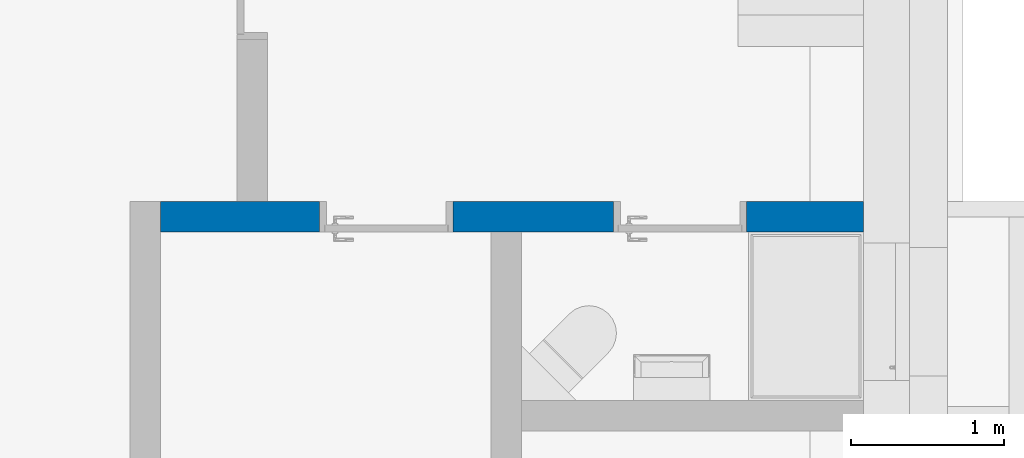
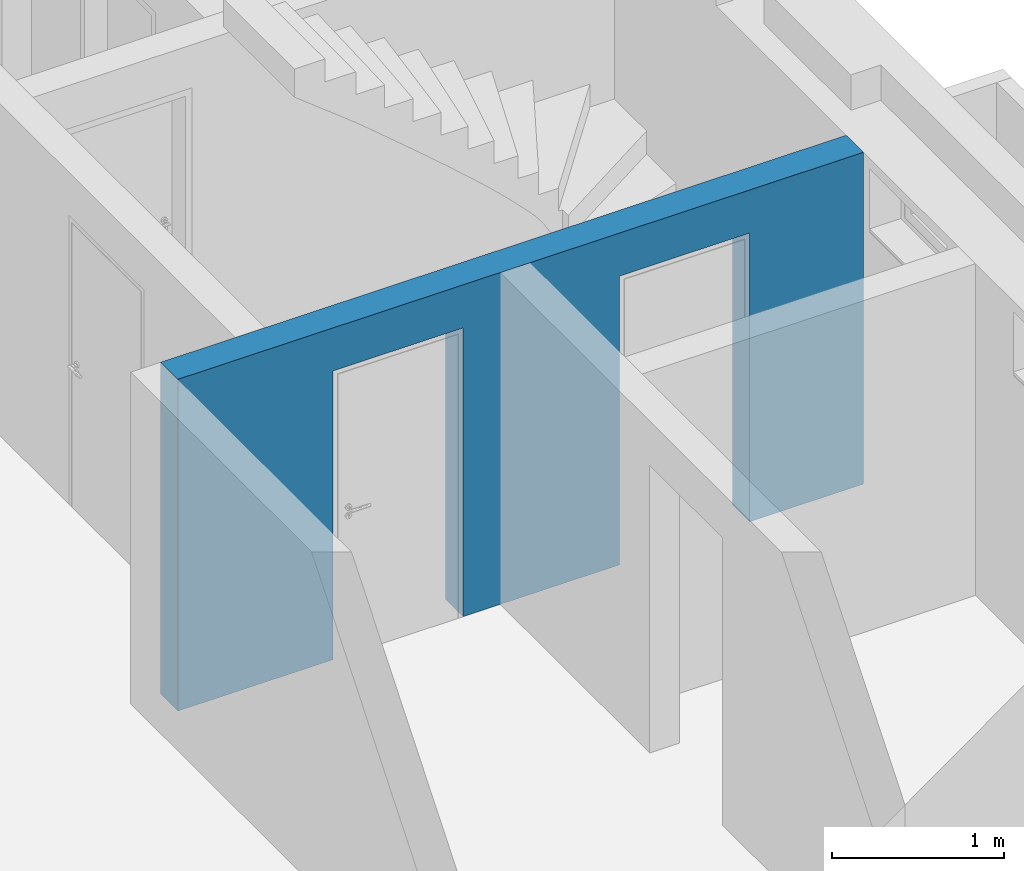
# One storey, part 3 of 22: 1 wall, 2 openings.
"""IFC2X3 building model written with IfcOpenShell, lengths in metres."""

import ifcopenshell
import ifcopenshell.guid

model = None  # the IFC model being written
_history = None  # IfcOwnerHistory: only IFC2X3 demands one
_inside = {}  # id of a spatial element -> (the spatial element, [elements in it])
_under = {}  # id of a project, library or spatial element -> (it, [spatial elements below it])
_declared = {}  # id of a project -> (the project, [libraries it declares])
_typed = {}  # id of a type object -> (the type object, [elements of that type])
_made_of = {}  # id of a material, layer set ... -> (it, [elements and type objects made of it])


def new_model(schema):
    """Start an empty IFC model of exactly this schema.

    Asked for "IFC4X3", IfcOpenShell would pick the latest addendum, in which some entities
    have other attributes; the version numbers below select the first issue.
    IFC2X3 requires an IfcOwnerHistory on every rooted entity: one is made here for all.
    """
    global model, _history
    if schema == "IFC4X3":
        model = ifcopenshell.file(schema_version=(4, 3, 0, 0))
    else:
        model = ifcopenshell.file(schema=schema)
    _inside.clear()
    _under.clear()
    _declared.clear()
    _typed.clear()
    _made_of.clear()
    _history = None
    if model.schema == "IFC2X3":
        org = make("IfcOrganization", Name="unknown")
        user = make(
            "IfcPersonAndOrganization",
            ThePerson=make("IfcPerson", FamilyName="unknown"),
            TheOrganization=org,
        )
        app = make(
            "IfcApplication",
            ApplicationDeveloper=org,
            Version="unknown",
            ApplicationFullName="unknown",
            ApplicationIdentifier="unknown",
        )
        _history = make(
            "IfcOwnerHistory",
            OwningUser=user,
            OwningApplication=app,
            ChangeAction="ADDED",
            CreationDate=0,
        )
    return model


def make(cls, **values):
    """One entity of the class cls with the attributes given. An attribute that is None is left unset."""
    return model.create_entity(
        cls, **{name: value for name, value in values.items() if value is not None}
    )


def entity(cls, *values):
    """Any entity or typed value of the class cls, its attributes in the order of the schema. None: left unset."""
    e = model.create_entity(cls)
    for i, value in enumerate(values):
        if value is not None:
            e[i] = value
    return e


def rooted(cls, **values):
    """An entity with a GlobalId (a new one), such as an element, a storey or a relation."""
    return make(cls, GlobalId=ifcopenshell.guid.new(), OwnerHistory=_history, **values)


def si_unit(unit_type, name, prefix=None):
    """IfcSIUnit, for example si_unit("LENGTHUNIT", "METRE", prefix="MILLI")."""
    return make("IfcSIUnit", UnitType=unit_type, Prefix=prefix, Name=name)


def converted_unit(unit_type, name, factor, base, dimensions=None, offset=None):
    """IfcConversionBasedUnit, such as the inch: factor (a typed value) times the base unit."""
    return make(
        "IfcConversionBasedUnit"
        if offset is None
        else "IfcConversionBasedUnitWithOffset",
        ConversionOffset=offset,
        Dimensions=None
        if dimensions is None
        else entity("IfcDimensionalExponents", *dimensions),
        UnitType=unit_type,
        Name=name,
        ConversionFactor=make(
            "IfcMeasureWithUnit", ValueComponent=factor, UnitComponent=base
        ),
    )


def derived_unit(unit_type, elements):
    """IfcDerivedUnit: a product of units, each with its exponent."""
    return make(
        "IfcDerivedUnit",
        Elements=[
            make("IfcDerivedUnitElement", Unit=unit, Exponent=power)
            for unit, power in elements
        ],
        UnitType=unit_type,
    )


def assignment(units):
    """IfcUnitAssignment: the units of a project."""
    return None if units is None else make("IfcUnitAssignment", Units=units)


def point(xyz):
    """IfcCartesianPoint."""
    return None if xyz is None else make("IfcCartesianPoint", Coordinates=xyz)


def direction(xyz):
    """IfcDirection."""
    return None if xyz is None else make("IfcDirection", DirectionRatios=xyz)


def frame(location, z_axis=None, x_axis=None):
    """IfcAxis2Placement3D, a coordinate frame: its origin and axes. An axis left out is left unset."""
    return make(
        "IfcAxis2Placement3D",
        Location=point(location),
        Axis=direction(z_axis),
        RefDirection=direction(x_axis),
    )


def frame_2d(location, x_axis=None):
    """IfcAxis2Placement2D, a coordinate frame in the plane: its origin and x axis."""
    return make(
        "IfcAxis2Placement2D", Location=point(location), RefDirection=direction(x_axis)
    )


def origin():
    """The frame at (0, 0, 0) with its axes left unset."""
    return frame((0.0, 0.0, 0.0))


def place(relative_to, where):
    """IfcLocalPlacement: puts the frame where relative to a parent placement (None: the world)."""
    return make(
        "IfcLocalPlacement", PlacementRelTo=relative_to, RelativePlacement=where
    )


def context(
    kind, dimensions, precision=None, world=None, true_north=None, identifier=None
):
    """IfcGeometricRepresentationContext, for example the 3D "Model" context."""
    return make(
        "IfcGeometricRepresentationContext",
        ContextIdentifier=identifier,
        ContextType=kind,
        CoordinateSpaceDimension=dimensions,
        Precision=precision,
        WorldCoordinateSystem=world,
        TrueNorth=true_north,
    )


def subcontext(parent, identifier, kind, view, scale=None):
    """IfcGeometricRepresentationSubContext, for example "Body" below "Model"."""
    return make(
        "IfcGeometricRepresentationSubContext",
        ContextIdentifier=identifier,
        ContextType=kind,
        ParentContext=parent,
        TargetScale=scale,
        TargetView=view,
    )


def project(units=None, contexts=None):
    """IfcProject with its units and contexts."""
    return rooted(
        "IfcProject",
        Name="project",
        RepresentationContexts=contexts,
        UnitsInContext=assignment(units),
    )


def spatial(cls, under=None, at=None, **own):
    """A site, building, storey or space (cls), placed at a placement, below another one or the project."""
    s = rooted(cls, ObjectPlacement=at, **own)
    if under is not None:
        _under.setdefault(under.id(), (under, []))[1].append(s)
    return s


def polyline(points):
    """IfcPolyline through the points."""
    return make("IfcPolyline", Points=[point(p) for p in points])


def profile(cls, at=None, kind="AREA", **sizes):
    """A parametric profile (cls). Its sizes go by their IFC names, for example OverallWidth=200.0."""
    return make(cls, ProfileType=kind, Position=at, **sizes)


def rectangle(**sizes):
    """IfcRectangleProfileDef."""
    return profile("IfcRectangleProfileDef", **sizes)


def extrude(swept, where, along, depth):
    """IfcExtrudedAreaSolid: the profile swept, set in the frame where, extruded along a direction by depth."""
    return make(
        "IfcExtrudedAreaSolid",
        SweptArea=swept,
        Position=where,
        ExtrudedDirection=direction(along),
        Depth=depth,
    )


def clip(a, b, op="DIFFERENCE"):
    """IfcBooleanClippingResult: the solid a cut by the half space b."""
    return make(
        "IfcBooleanClippingResult", Operator=op, FirstOperand=a, SecondOperand=b
    )


def bounded_halfspace(plane, agree, where, boundary):
    """IfcPolygonalBoundedHalfSpace: a half space limited to a polygon's prism."""
    return make(
        "IfcPolygonalBoundedHalfSpace",
        BaseSurface=make("IfcPlane", Position=plane),
        AgreementFlag=agree,
        Position=where,
        PolygonalBoundary=boundary,
    )


def shape(context_of_items, identifier, shape_type, items):
    """IfcShapeRepresentation: the items that make up one representation, for example the "Body"."""
    return make(
        "IfcShapeRepresentation",
        ContextOfItems=context_of_items,
        RepresentationIdentifier=identifier,
        RepresentationType=shape_type,
        Items=items,
    )


def material(Name=None, Category=None):
    """IfcMaterial."""
    return make("IfcMaterial", Name=Name, Category=Category)


def layer(
    of_material, thickness, ventilated=None, Name=None, Category=None, Priority=None
):
    """IfcMaterialLayer: one layer of a wall or slab, of a material (None: an air gap)."""
    return make(
        "IfcMaterialLayer",
        Material=of_material,
        LayerThickness=thickness,
        IsVentilated=ventilated,
        Name=Name,
        Category=Category,
        Priority=Priority,
    )


def layer_set(layers, Name=None):
    """IfcMaterialLayerSet."""
    return make("IfcMaterialLayerSet", MaterialLayers=layers, LayerSetName=Name)


def layer_usage(for_layer_set, set_direction, sense, offset, extent=None):
    """IfcMaterialLayerSetUsage: how a layer set lies in its element."""
    return make(
        "IfcMaterialLayerSetUsage",
        ForLayerSet=for_layer_set,
        LayerSetDirection=set_direction,
        DirectionSense=sense,
        OffsetFromReferenceLine=offset,
        ReferenceExtent=extent,
    )


def made_of(thing, what):
    """Note that an element or type object is made of a material, layer set ...; save() writes the relation."""
    if what is not None:
        _made_of.setdefault(what.id(), (what, []))[1].append(thing)
    return thing


def type_object(cls, material=None, **own):
    """A type object (cls), such as IfcWallType, which elements share."""
    return made_of(rooted(cls, **own), material)


def element(
    cls,
    number,
    at=None,
    inside=None,
    cuts=None,
    type_object=None,
    material=None,
    context=None,
    identifier="Body",
    shape_type=None,
    held_by="IfcProductDefinitionShape",
    body=None,
    shapes=None,
    **own,
):
    """One element of the class cls, such as IfcWall. Its Tag is "e" and its number.

    at: its placement. inside: the storey or other place that contains it. cuts: it is an
    opening in that element (IfcRelVoidsElement). A single representation is given by context,
    identifier, shape_type and body (its items); several are given by shapes. held_by: the class
    of the entity that holds the representations. save() writes the other relations.
    """
    e = rooted(cls, Tag="e%d" % number, ObjectPlacement=at, **own)
    if body is not None:
        shapes = [shape(context, identifier, shape_type, body)]
    if shapes is not None:
        e.Representation = make(held_by, Representations=shapes)
    if inside is not None:
        _inside.setdefault(inside.id(), (inside, []))[1].append(e)
    if cuts is not None:
        rooted(
            "IfcRelVoidsElement", RelatingBuildingElement=cuts, RelatedOpeningElement=e
        )
    if type_object is not None:
        _typed.setdefault(type_object.id(), (type_object, []))[1].append(e)
    return made_of(e, material)


def aggregate(whole, parts):
    """IfcRelAggregates: a whole, such as a stair, and the parts it consists of."""
    return rooted("IfcRelAggregates", RelatingObject=whole, RelatedObjects=parts)


def save(model, path):
    """Write the relations noted so far, then the file.

    IfcRelAggregates (storeys below a building ...), IfcRelContainedInSpatialStructure (elements
    in a storey), IfcRelDefinesByType, IfcRelAssociatesMaterial and IfcRelDeclares: one each for
    every whole, place, type object, material and project.
    """
    for whole, parts in _under.values():
        aggregate(whole, parts)
    for where, things in _inside.values():
        rooted(
            "IfcRelContainedInSpatialStructure",
            RelatedElements=things,
            RelatingStructure=where,
        )
    for kind, things in _typed.values():
        rooted("IfcRelDefinesByType", RelatedObjects=things, RelatingType=kind)
    for what, things in _made_of.values():
        rooted("IfcRelAssociatesMaterial", RelatedObjects=things, RelatingMaterial=what)
    for by, libraries in _declared.values():
        rooted("IfcRelDeclares", RelatingContext=by, RelatedDefinitions=libraries)
    model.write(path)


model = new_model("IFC2X3")

# Units and contexts
model_context = context("Model", 3, precision=1e-05, world=origin(), true_north=direction((6.123233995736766e-17, 1.0)))
body_context = subcontext(model_context, "Body", "Model", "MODEL_VIEW")
ifc_project = project(units=[si_unit("LENGTHUNIT", "METRE"), si_unit("AREAUNIT", "SQUARE_METRE"), si_unit("VOLUMEUNIT", "CUBIC_METRE"), si_unit("POWERUNIT", "WATT"), derived_unit("USERDEFINED", [(si_unit("MASSUNIT", "GRAM", prefix="KILO"), 1), (si_unit("TIMEUNIT", "SECOND"), -3)]), derived_unit("THERMALRESISTANCEUNIT", [(si_unit("MASSUNIT", "GRAM", prefix="KILO"), -1), (si_unit("TIMEUNIT", "SECOND"), 3), (si_unit("THERMODYNAMICTEMPERATUREUNIT", "KELVIN"), 1)]), derived_unit("USERDEFINED", [(si_unit("MASSUNIT", "GRAM", prefix="KILO"), 1), (si_unit("TIMEUNIT", "SECOND"), -2), (si_unit("THERMODYNAMICTEMPERATUREUNIT", "KELVIN"), -1)]), derived_unit("THERMALTRANSMITTANCEUNIT", [(si_unit("MASSUNIT", "GRAM", prefix="KILO"), 1), (si_unit("TIMEUNIT", "SECOND"), -3), (si_unit("THERMODYNAMICTEMPERATUREUNIT", "KELVIN"), -1)]), converted_unit("PLANEANGLEUNIT", "DEGREE", entity("IfcPlaneAngleMeasure", 0.017453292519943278), si_unit("PLANEANGLEUNIT", "RADIAN"), dimensions=[0, 0, 0, 0, 0, 0, 0]), derived_unit("MOMENTOFINERTIAUNIT", [(si_unit("LENGTHUNIT", "METRE"), 4)])], contexts=[model_context])

# Site, building, storey
site_placement = place(None, origin())
site = spatial("IfcSite", under=ifc_project, at=site_placement, Name="Default", CompositionType="ELEMENT")
building_placement = place(site_placement, origin())
building = spatial("IfcBuilding", under=site, at=building_placement, CompositionType="ELEMENT")
storey_placement = place(building_placement, origin())
storey = spatial("IfcBuildingStorey", under=building, at=storey_placement, Name="Untergeschoss", CompositionType="ELEMENT", Elevation=0.0)

# Wall, openings
ifc_material = material(Name="Mauerwerk - Ziegel")
ifc_layer = layer(ifc_material, 0.2)
ifc_layer_set = layer_set([ifc_layer], Name="Basiswand:Ziegel 200")
ifc_layer_usage = layer_usage(ifc_layer_set, "AXIS2", "NEGATIVE", 0.1)
wall_type = type_object("IfcWallType", Name="Basiswand:Ziegel 200", PredefinedType="STANDARD", material=ifc_layer_set)
wall_placement = place(storey_placement, frame((33.48375489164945, 20.292272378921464, 0.0)))
wall = element("IfcWallStandardCase", 1, at=wall_placement, inside=storey, type_object=wall_type, material=ifc_layer_usage, Name="Basiswand:Ziegel 200", ObjectType="Basiswand:Ziegel 200", context=body_context, shape_type="Clipping", body=[
    clip(extrude(rectangle(XDim=4.592965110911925, YDim=0.19999999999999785, at=frame_2d((2.2964825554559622, 0.0), x_axis=(1.0, 0.0))), origin(), (0.0, 0.0, 1.0), 2.35), bounded_halfspace(frame((0.0, -0.09999999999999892, 2.35), z_axis=(0.0, 0.0, -1.0), x_axis=(1.0, 0.0, 0.0)), True, frame((0.0, -0.09999999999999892, 2.35)), polyline([(0.0, 0.0), (2.16000000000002, 0.0), (2.360000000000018, 0.0), (4.592965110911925, 0.0), (4.5929651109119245, 0.19999999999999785), (0.0, 0.19999999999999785), (0.0, 0.0)]))),
])
opening_1_placement = place(wall_placement, frame((1.9100000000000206, 0.0999999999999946, -0.18000000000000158)))
element("IfcOpeningElement", 2, at=opening_1_placement, cuts=wall, Name="TU DF 1 - Rahmenstock flächenbündig:DL - 780 x 2000:1", ObjectType="Opening", context=body_context, shape_type="SweptSolid", body=[
    extrude(rectangle(XDim=2.224999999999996, YDim=0.8699999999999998, at=frame_2d((1.1124999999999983, 0.4350000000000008), x_axis=(-1.0, 0.0))), frame((0.0, 0.0, 0.0), z_axis=(0.0, -1.0, 0.0), x_axis=(0.0, 0.0, 1.0)), (0.0, 0.0, 1.0), 0.2),
])
opening_2_placement = place(wall_placement, frame((3.8300000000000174, 0.09999999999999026, -0.18000000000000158)))
element("IfcOpeningElement", 3, at=opening_2_placement, cuts=wall, Name="TU DF 1 - Rahmenstock flächenbündig:DL - 780 x 2000:1", ObjectType="Opening", context=body_context, shape_type="SweptSolid", body=[
    extrude(rectangle(XDim=2.224999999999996, YDim=0.8699999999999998, at=frame_2d((1.1124999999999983, 0.4350000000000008), x_axis=(-1.0, 0.0))), frame((0.0, 0.0, 0.0), z_axis=(0.0, -1.0, 0.0), x_axis=(0.0, 0.0, 1.0)), (0.0, 0.0, 1.0), 0.2),
])

save(model, "model.ifc")
